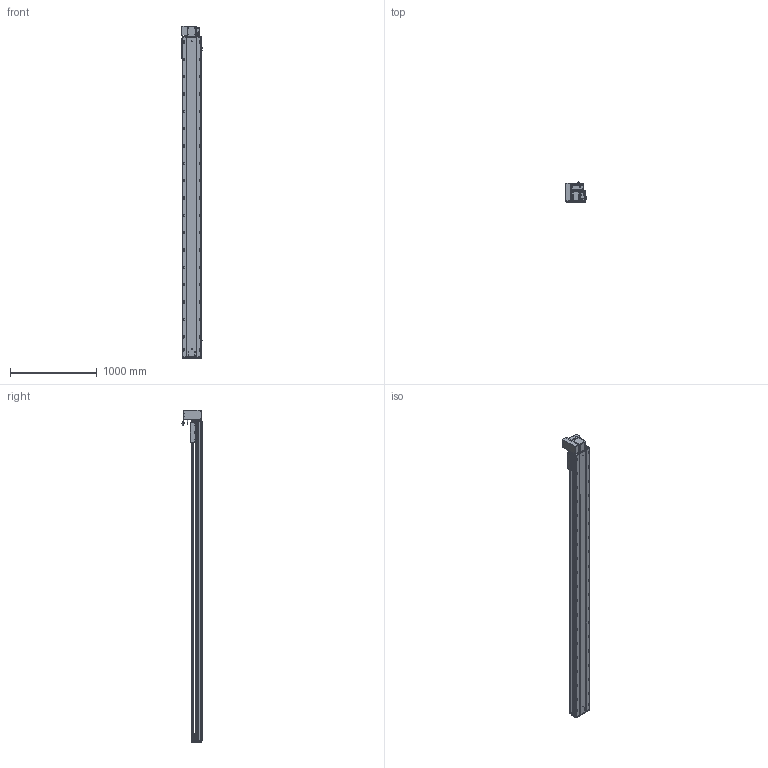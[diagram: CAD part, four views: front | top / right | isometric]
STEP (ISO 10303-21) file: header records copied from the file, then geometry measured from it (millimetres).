
FILE_DESCRIPTION (( 'STEP AP203' ), '1' );
FILE_NAME ('RY220-T-300-UL.SLDASM_3350.step', '2022-07-25T08:36:54', ( '' ), ( '' ), 'SwSTEP 2.0', 'SolidWorks 2016', '' );
FILE_SCHEMA (( 'CONFIG_CONTROL_DESIGN' ));
Length unit declared in the file: millimetre
Products named in the file (14): RY220-T菁釱-300_3350; 覜茼ん672; 怢湛750W_ECMA-CX0807ES; 110A-T-肮祭謫釱傷裔; RY220翋肮祭謫釱; 滅袉蝶18-15; RY220-T-300-奻裔啣_3350; RY220-T-湍謫欶(鍼踢); RY220-俋离672覜茼んえ; RY220-T-300-UL.SLDASM_3350; RY220-同步轮副支撑座6304×2; RY220圉猾敕々湍臏賑輸; RY220-T-蛌殏萇儂假蚾啣(750W); RY220翋肮祭謫裔啣
Assembly tree (18 placements, depth 2):
  RY220-T-300-UL.SLDASM_3350
    RY220-T菁釱-300_3350
    RY220翋肮祭謫釱
    覜茼ん672  x3
    RY220圉猾敕々湍臏賑輸
    RY220-T-300-奻裔啣_3350
    RY220-俋离672覜茼んえ
    滅袉蝶18-15  x3
    RY220翋肮祭謫裔啣  x2
    110A-T-肮祭謫釱傷裔
    怢湛750W_ECMA-CX0807ES
    RY220-T-湍謫欶(鍼踢)
    RY220-T-蛌殏萇儂假蚾啣(750W)
    RY220-同步轮副支撑座6304×2
Bounding box: 239.7 x 231.74 x 3830.5 mm (x, y, z)
Volume: 27468394 mm3; surface area: 8537511.6 mm2
Topology: 19 solids, 19 shells, 3104 faces, 8591 edges, 5364 vertices
Faces by surface type: cylinder 1548, plane 1069, cone 405, bspline 56, sphere 16, torus 10
Entity records: 103555 total; most frequent: CARTESIAN_POINT 29131, ORIENTED_EDGE 15354, DIRECTION 14900, EDGE_CURVE 7677, AXIS2_PLACEMENT_3D 5402, VERTEX_POINT 4988, LINE 4096, VECTOR 4096
